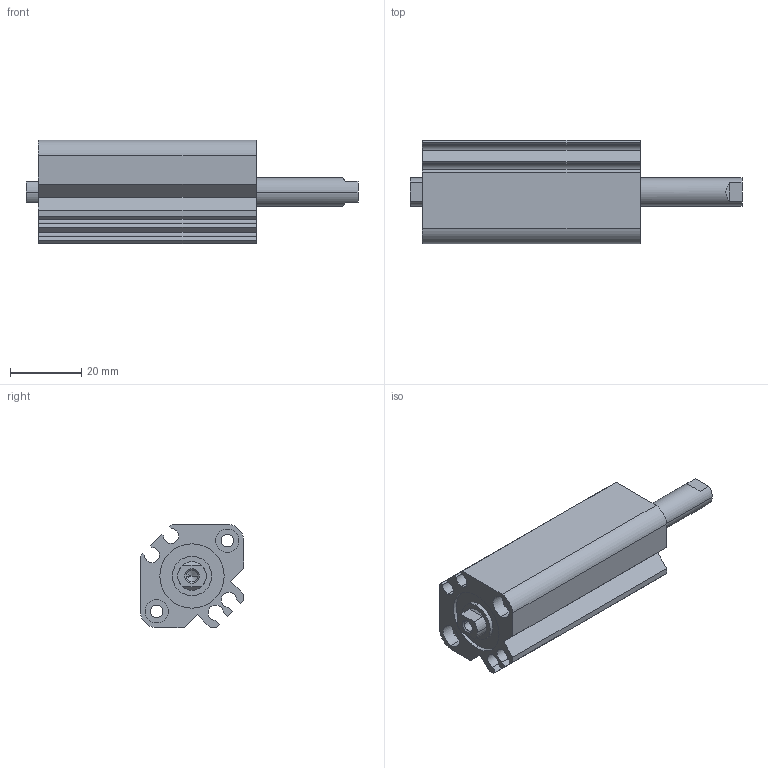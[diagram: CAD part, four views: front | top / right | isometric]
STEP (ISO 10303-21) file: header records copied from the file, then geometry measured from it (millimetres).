
FILE_DESCRIPTION (( 'STEP AP203' ), '1' );
FILE_NAME ('CCMB16-25F-P.STEP', '2020-08-05T11:04:10', ( '' ), ( '' ), 'SwSTEP 2.0', 'SolidWorks 2019', '' );
FILE_SCHEMA (( 'CONFIG_CONTROL_DESIGN' ));
Length unit declared in the file: millimetre
Products named in the file (1): CCMB16-25F-P
Bounding box: 93 x 29 x 29 mm (x, y, z)
Volume: 36415.5 mm3; surface area: 17960.1 mm2
Topology: 2 solids, 2 shells, 114 faces, 276 edges, 178 vertices
Faces by surface type: cylinder 52, plane 50, cone 12
Entity records: 3419 total; most frequent: DIRECTION 614, CARTESIAN_POINT 577, ORIENTED_EDGE 544, EDGE_CURVE 272, AXIS2_PLACEMENT_3D 231, VERTEX_POINT 178, LINE 152, VECTOR 152
